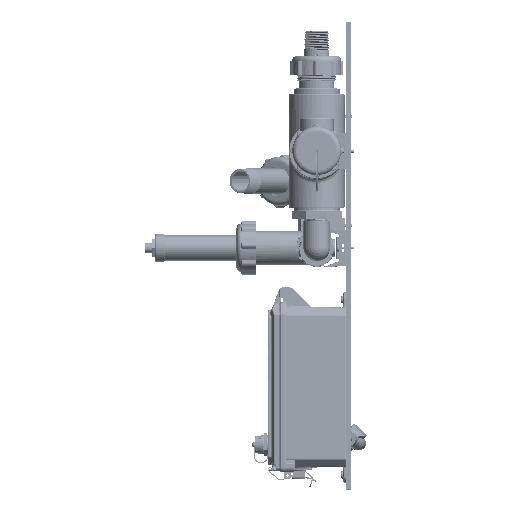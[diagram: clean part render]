
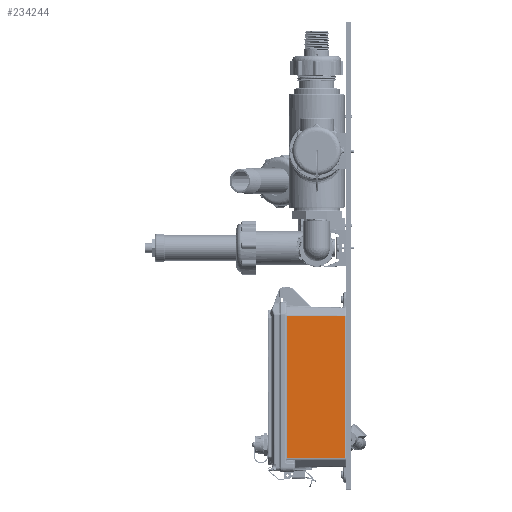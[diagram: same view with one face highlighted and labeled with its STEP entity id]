
A CAD part, top view. The second image highlights one B-rep face of the part: STEP entity #234244.
In plain terms, the highlighted planar face has unit normal (0.018, 0, 1) as drawn and (-0.017, 0, 1) by its records, which use the part's own axes.
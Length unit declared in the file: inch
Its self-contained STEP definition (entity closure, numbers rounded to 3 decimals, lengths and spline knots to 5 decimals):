
#10319 = VECTOR ( 'NONE', #33089, 39.37008 ) ;
#33089 = DIRECTION ( 'NONE',  ( 1., 0.007, 0.017 ) ) ;
#37607 = CARTESIAN_POINT ( 'NONE',  ( -0.21878, 3.65683, 3.14118 ) ) ;
#54741 = LINE ( 'NONE', #233287, #352031 ) ;
#62029 = LINE ( 'NONE', #546146, #10319 ) ;
#86111 = CARTESIAN_POINT ( 'NONE',  ( -3.18613, -3.63538, 3.08939 ) ) ;
#115741 = EDGE_CURVE ( 'NONE', #522206, #445513, #521619, .T. ) ;
#134980 = EDGE_CURVE ( 'NONE', #369724, #159746, #54741, .T. ) ;
#159093 = VECTOR ( 'NONE', #427266, 39.37008 ) ;
#159746 = VERTEX_POINT ( 'NONE', #37607 ) ;
#164950 = ORIENTED_EDGE ( 'NONE', *, *, #115741, .F. ) ;
#177359 = DIRECTION ( 'NONE',  ( 0., 1., 0. ) ) ;
#208476 = CARTESIAN_POINT ( 'NONE',  ( -3.18613, 3.67756, 3.08939 ) ) ;
#208680 = EDGE_CURVE ( 'NONE', #522206, #369724, #560677, .T. ) ;
#213775 = EDGE_LOOP ( 'NONE', ( #368635, #268817, #534401, #164950 ) ) ;
#233287 = CARTESIAN_POINT ( 'NONE',  ( -0.21878, 4.85633, 3.14118 ) ) ;
#234244 = ADVANCED_FACE ( 'NONE', ( #494271 ), #564365, .T. ) ;
#244449 = AXIS2_PLACEMENT_3D ( 'NONE', #612222, #369100, #281964 ) ;
#256156 = DIRECTION ( 'NONE',  ( 0., 1., 0. ) ) ;
#268817 = ORIENTED_EDGE ( 'NONE', *, *, #134980, .T. ) ;
#281964 = DIRECTION ( 'NONE',  ( 1., 0., 0.017 ) ) ;
#352031 = VECTOR ( 'NONE', #177359, 39.37008 ) ;
#368635 = ORIENTED_EDGE ( 'NONE', *, *, #208680, .T. ) ;
#369100 = DIRECTION ( 'NONE',  ( -0.017, 0., 1. ) ) ;
#369724 = VERTEX_POINT ( 'NONE', #419203 ) ;
#410111 = VECTOR ( 'NONE', #256156, 39.37008 ) ;
#410616 = CARTESIAN_POINT ( 'NONE',  ( -3.18613, 3.63538, 3.08939 ) ) ;
#419203 = CARTESIAN_POINT ( 'NONE',  ( -0.21878, -3.65683, 3.14118 ) ) ;
#427266 = DIRECTION ( 'NONE',  ( 1., -0.007, 0.017 ) ) ;
#445513 = VERTEX_POINT ( 'NONE', #410616 ) ;
#467827 = EDGE_CURVE ( 'NONE', #445513, #159746, #62029, .T. ) ;
#468871 = CARTESIAN_POINT ( 'NONE',  ( -3.18613, -3.63538, 3.08939 ) ) ;
#494271 = FACE_OUTER_BOUND ( 'NONE', #213775, .T. ) ;
#521619 = LINE ( 'NONE', #208476, #410111 ) ;
#522206 = VERTEX_POINT ( 'NONE', #86111 ) ;
#534401 = ORIENTED_EDGE ( 'NONE', *, *, #467827, .F. ) ;
#546146 = CARTESIAN_POINT ( 'NONE',  ( 4.67159, 3.69219, 3.22654 ) ) ;
#560677 = LINE ( 'NONE', #468871, #159093 ) ;
#564365 = PLANE ( 'NONE',  #244449 ) ;
#612222 = CARTESIAN_POINT ( 'NONE',  ( 0., 4.85633, 3.145 ) ) ;
